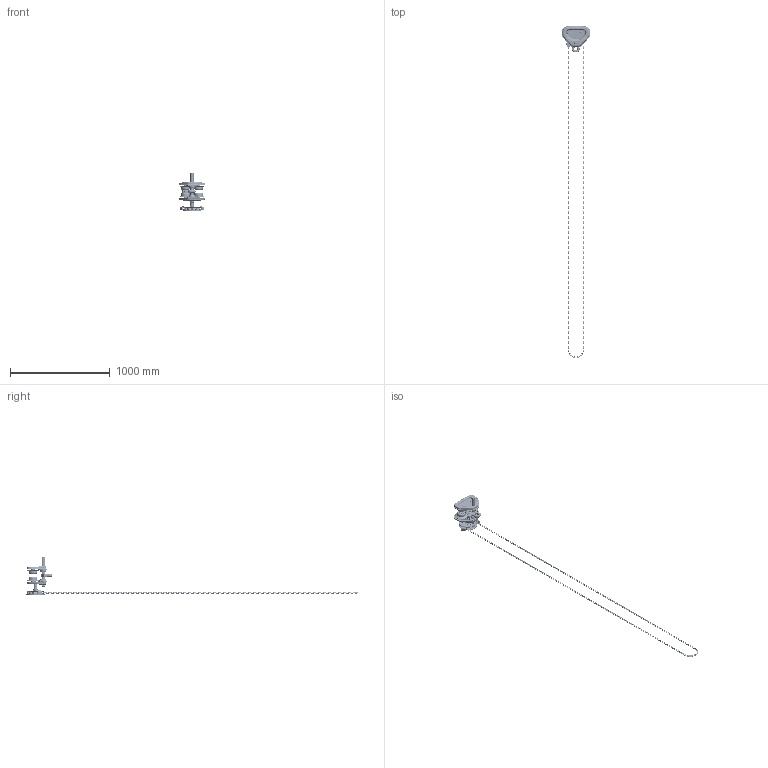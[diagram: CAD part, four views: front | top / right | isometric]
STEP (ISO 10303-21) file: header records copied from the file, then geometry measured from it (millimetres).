
FILE_DESCRIPTION (( 'STEP AP214' ), '1' );
FILE_NAME ('GTF2020.STEP', '2026-08-17T14:55:48', ( '' ), ( '' ), 'SwSTEP 2.0', 'SolidWorks 2026', '' );
FILE_SCHEMA (( 'AUTOMOTIVE_DESIGN' ));
Length unit declared in the file: inch
Products named in the file (29): T6G5102020; T6GA0209113; T6G156020; 9009423_9009423; T7G115020; HCCF005; T6GA0209122; T6GA0209111; T6G5121010; 6304Z Bearing; HCCF005 for GT2020; T6GA0209103; 9012515_9012515; T7GB0109121; T6G800020G; GTF2020; T6GA0209112; T6GA0109126; T6G5111020; MS104020; 9047120_9047120; 9009432_9009432; L4082090_L4082090; T6GA0109125; T6GA0209102; T6G5112020; T7G117020; T7GC004020; T6G123010
Assembly tree (314 placements, depth 3):
  GTF2020
    T6G5112020
      T6GA0209112
      T6GA0209113
      T6GA0209103  x2
    T6G5111020
      T6GA0209111
      T6GA0209113
      T6GA0209122
      T6GA0209103  x2
    T6G5102020  x4
      T6GA0209102
      6304Z Bearing
    MS104020  x4
    9047120_9047120  x4
    T7G115020
    T6G156020  x2
    T7G117020
    9009432_9009432  x2
    T6G800020G
    T6G5121010
      T6GA0109125
      T6GA0109126
    T6G123010
    T7GB0109121
    9012515_9012515
    L4082090_L4082090
    9009423_9009423
    HCCF005 for GT2020
      HCCF005  x272
    T7GC004020
Bounding box: 280 x 3321.69 x 385.3 mm (x, y, z)
Volume: 2591964.3 mm3; surface area: 1200944.8 mm2
Topology: 308 solids, 324 shells, 6487 faces, 15211 edges, 8971 vertices
Faces by surface type: torus 2201, cylinder 1908, plane 1638, bspline 377, cone 353, sphere 10
Entity records: 92899 total; most frequent: CARTESIAN_POINT 36485, ORIENTED_EDGE 11644, DIRECTION 11158, EDGE_CURVE 5824, AXIS2_PLACEMENT_3D 4667, VERTEX_POINT 3685, EDGE_LOOP 2397, CIRCLE 2383
